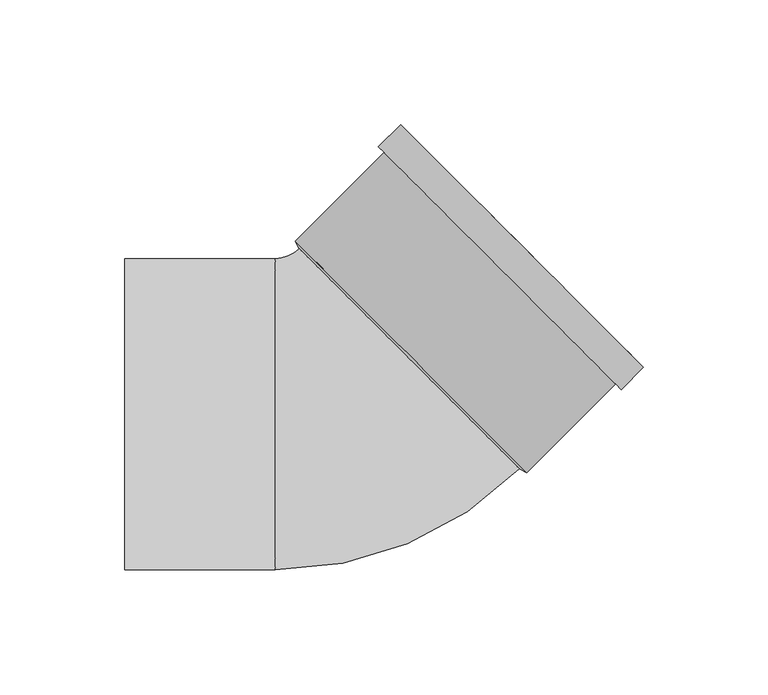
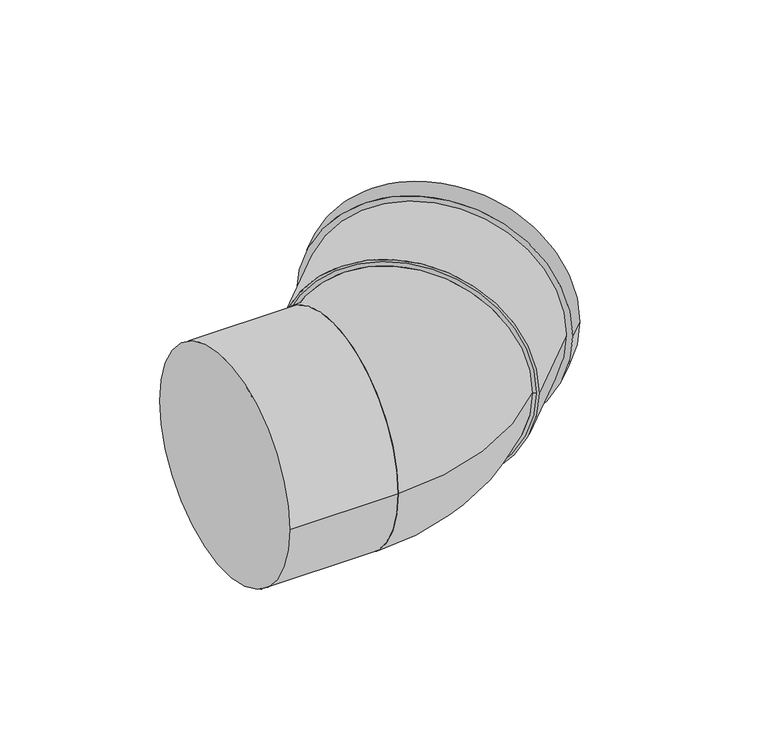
"""IFC4 building model written with IfcOpenShell, lengths in millimetres: pipe fitting geometry, Superdrain HT bend : Superdrain HT Bend."""

from ifc_helpers import new_model, si_unit, point, frame, origin, origin_2d, place, context, project, spatial, polyline, circle_curve, ellipse_curve, trimmed, segment, composite_curve, outline, extrude, source, transform, mapped, element, save
from ifc_brep_helpers import plane_surface, revolved_surface, advanced_brep


def pipe_fitting_a6189db2(model_context):
    return source(origin(), model_context, "Body", "SolidModel", [
        advanced_brep(
        [(66.4680374, -21.9203102, 0.0), (-21.9203102, 66.4680374, 0.0), (-31.5, -62.5, 0.0), (-31.5, 62.5, 0.0)],
        [
            (0, 1, circle_curve(frame((22.2738636, 22.2738636, 0.0), z_axis=(0.7071067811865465, 0.7071067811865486, 0.0), x_axis=(-0.7071067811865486, 0.7071067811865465, 0.0)), 62.5)),
            (1, 0, circle_curve(frame((22.2738636, 22.2738636, 0.0), z_axis=(0.7071067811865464, 0.7071067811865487, 0.0), x_axis=(-0.7071067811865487, 0.7071067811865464, 0.0)), 62.5)),
            (2, 3, circle_curve(frame((-31.5, 0.0, 0.0), z_axis=(-1.0, 0.0, 0.0), x_axis=(0.0, 1.0, 0.0)), 62.5)),
            (3, 2, circle_curve(frame((-31.5, 0.0, 0.0), z_axis=(-1.0, 0.0, 0.0), x_axis=(0.0, 1.0, 0.0)), 62.5)),
            (3, 1, circle_curve(frame((-31.5, 76.0477272, 0.0), z_axis=(0.0, 0.0, 1.0), x_axis=(1.0, 0.0, 0.0)), 13.5477272)),
            (0, 2, circle_curve(frame((-31.5, 76.0477272, 0.0), z_axis=(0.0, 0.0, -1.0), x_axis=(1.0, 0.0, 0.0)), 138.5477272)),
        ],
        [
            plane_surface(frame((22.2738636, 22.2738636, 0.0), z_axis=(0.7071067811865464, 0.7071067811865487, 0.0), x_axis=(0.0, 0.0, -1.0))),
            plane_surface(frame((-31.5, 0.0, 0.0), z_axis=(-1.0, 0.0, 0.0), x_axis=(0.0, 0.0, -1.0))),
            revolved_surface(trimmed(ellipse_curve(frame((44.5477272, 76.0477272, 0.0), z_axis=(0.0, -1.0, 0.0), x_axis=(-1.0, 0.0, 0.0)), 62.5, 62.5), [point((-17.9522728, 76.0477272, 0.0))], [point((107.0477272, 76.0477272, 0.0))], True, "CARTESIAN"), (-31.5, 76.0477272, 0.0), (0.0, 0.0, 1.0)),
            revolved_surface(trimmed(ellipse_curve(frame((44.5477272, 76.0477272, 0.0), z_axis=(0.0, -1.0, 0.0), x_axis=(-1.0, 0.0, 0.0)), 62.5, 62.5), [point((107.0477272, 76.0477272, 0.0))], [point((-17.9522728, 76.0477272, 0.0))], True, "CARTESIAN"), (-31.5, 76.0477272, 0.0), (0.0, 0.0, 1.0)),
        ],
        [
            (0, [[1, 2]]),
            (1, [[3, 4]]),
            (2, [[-4, 5, -1, 6]]),
            (3, [[-3, -6, -2, -5]]),
        ],
    ),
        extrude(outline(composite_curve([segment(trimmed(circle_curve(origin_2d(), 65.625), [point((0.0, 65.625))], [point((0.0, -65.625))], False, "CARTESIAN"), True, "CONTINUOUS"), segment(trimmed(circle_curve(origin_2d(), 65.625), [point((0.0, -65.625))], [point((0.0, 65.625))], False, "CARTESIAN"), True, "CONTINUOUS")], self_intersect=False), holes=[composite_curve([segment(trimmed(circle_curve(origin_2d(), 62.5), [point((0.0, 62.5))], [point((0.0, -62.5))], True, "CARTESIAN"), True, "CONTINUOUS"), segment(trimmed(circle_curve(origin_2d(), 62.5), [point((0.0, -62.5))], [point((0.0, 62.5))], True, "CARTESIAN"), True, "CONTINUOUS")], self_intersect=False)]), frame((22.9809704, 22.9809704, 0.0), z_axis=(0.707106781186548, 0.707106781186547, 0.0), x_axis=(0.0, 0.0, 1.0)), (0.0, 0.0, 1.0), 63.0),
        extrude(outline(composite_curve([segment(trimmed(circle_curve(origin_2d(), 68.90625), [point((0.0, -68.90625))], [point((0.0, 68.90625))], False, "CARTESIAN"), True, "CONTINUOUS"), segment(trimmed(circle_curve(origin_2d(), 68.90625), [point((0.0, 68.90625))], [point((0.0, -68.90625))], False, "CARTESIAN"), True, "CONTINUOUS")], self_intersect=False), holes=[composite_curve([segment(trimmed(circle_curve(origin_2d(), 62.5), [point((0.0, -62.5))], [point((0.0, 62.5))], True, "CARTESIAN"), True, "CONTINUOUS"), segment(trimmed(circle_curve(origin_2d(), 62.5), [point((0.0, 62.5))], [point((0.0, -62.5))], True, "CARTESIAN"), True, "CONTINUOUS")], self_intersect=False)]), frame((58.6191522, 58.6191522, 0.0), z_axis=(0.7071067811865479, 0.7071067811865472, 0.0), x_axis=(0.0, 0.0, 1.0)), (0.0, 0.0, 1.0), 12.6),
        advanced_brep(
        [(69.3848529, -23.4229121, 0.0), (-23.4229121, 69.3848529, 0.0), (66.4680374, -21.9203102, 0.0), (-21.9203102, 66.4680374, 0.0)],
        [
            (0, 1, circle_curve(frame((22.9809704, 22.9809704, 0.0), z_axis=(0.7071067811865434, 0.7071067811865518, 0.0), x_axis=(0.7071067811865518, -0.7071067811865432, 0.0)), 65.625)),
            (1, 0, circle_curve(frame((22.9809704, 22.9809704, 0.0), z_axis=(0.7071067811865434, 0.7071067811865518, 0.0), x_axis=(-0.7071067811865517, 0.7071067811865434, 0.0)), 65.625)),
            (2, 3, circle_curve(frame((22.2738636, 22.2738636, 0.0), z_axis=(-0.7071067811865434, -0.7071067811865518, 0.0), x_axis=(-0.7071067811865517, 0.7071067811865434, 0.0)), 62.5)),
            (3, 2, circle_curve(frame((22.2738636, 22.2738636, 0.0), z_axis=(-0.7071067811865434, -0.7071067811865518, 0.0), x_axis=(0.7071067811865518, -0.7071067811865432, 0.0)), 62.5)),
            (3, 1),
            (0, 2),
        ],
        [
            plane_surface(frame((22.9809704, 22.9809704, 0.0), z_axis=(0.7071067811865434, 0.7071067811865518, 0.0), x_axis=(0.0, 0.0, -1.0))),
            plane_surface(frame((22.2738636, 22.2738636, 0.0), z_axis=(-0.7071067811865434, -0.7071067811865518, 0.0), x_axis=(0.0, 0.0, -1.0))),
            revolved_surface(polyline([(-21.920310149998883, 66.46803734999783, 0.0), (-23.422912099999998, 69.3848529, 0.0)]), (8.131728, 8.131728, 0.0), (0.7071067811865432, 0.7071067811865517, 0.0)),
            revolved_surface(polyline([(66.46803735, -21.920310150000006, 0.0), (69.38485290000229, -23.422912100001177, 0.0)]), (8.131728, 8.131728, 0.0), (0.7071067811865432, 0.7071067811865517, 0.0)),
        ],
        [
            (0, [[1, 2]]),
            (1, [[3, 4]]),
            (2, [[-4, 5, -1, 6]]),
            (3, [[-3, -6, -2, -5]]),
        ],
    ),
        extrude(outline(composite_curve([segment(trimmed(circle_curve(origin_2d(), 62.5), [point((-62.5, 0.0))], [point((62.5, 0.0))], False, "CARTESIAN"), True, "CONTINUOUS"), segment(trimmed(circle_curve(origin_2d(), 62.5), [point((62.5, 0.0))], [point((-62.5, 0.0))], False, "CARTESIAN"), True, "CONTINUOUS")], self_intersect=False)), frame((-92.0, 0.0, 0.0), z_axis=(1.0, 0.0, 0.0), x_axis=(0.0, 1.0, 0.0)), (0.0, 0.0, 1.0), 60.5),
    ])


if __name__ == "__main__":
    model = new_model("IFC4")
    model_context = context("Model", 3, world=origin())
    ifc_project = project(units=[si_unit("LENGTHUNIT", "METRE", prefix="MILLI")], contexts=[model_context])
    site = spatial("IfcSite", under=ifc_project)
    building = spatial("IfcBuilding", under=site)
    placement = place(None, origin())
    pipe_fitting_shape = pipe_fitting_a6189db2(model_context)
    element("IfcPipeFitting", 1, ObjectType="Superdrain HT bend : Superdrain HT Bend", at=placement, inside=building, context=model_context, shape_type="MappedRepresentation", body=[
        mapped(pipe_fitting_shape, transform((0.0, 0.0, 0.0), x_axis=(1.0, 0.0, 0.0), y_axis=(0.0, 1.0, 0.0), z_axis=(0.0, 0.0, 1.0))),
    ])
    save(model, "model.ifc")
